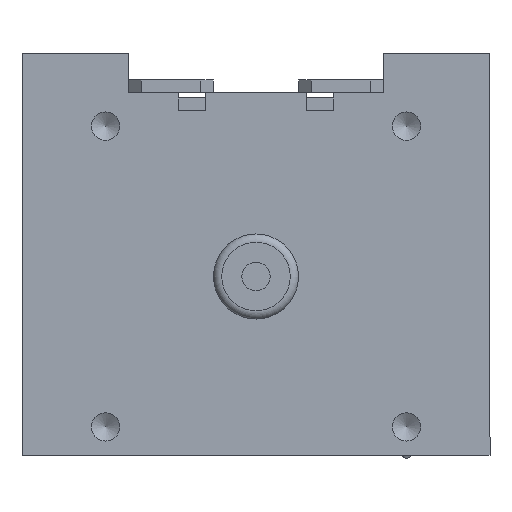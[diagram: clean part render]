
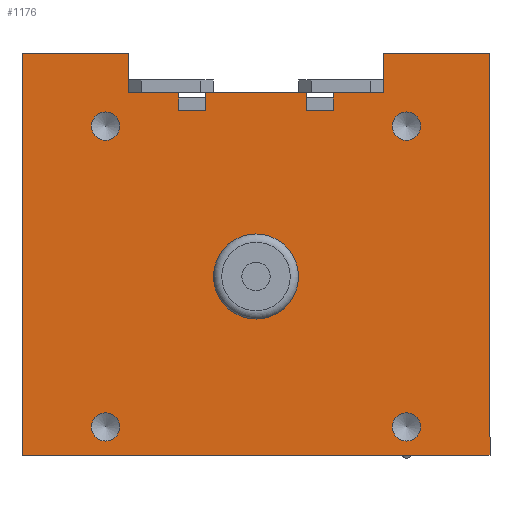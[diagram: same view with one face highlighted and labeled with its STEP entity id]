
A CAD part, front view. The second image highlights one B-rep face of the part: STEP entity #1176.
In plain terms, the highlighted planar face has unit normal (0, -1, 0).
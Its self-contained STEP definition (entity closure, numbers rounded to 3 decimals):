
#970=CARTESIAN_POINT('',(0.,0.,52.));
#971=VERTEX_POINT('',#970);
#972=CARTESIAN_POINT('',(0.,0.,42.));
#973=DIRECTION('',(0.0,1.0,0.0));
#974=DIRECTION('',(0.0,0.0,-1.0));
#975=AXIS2_PLACEMENT_3D('',#972,#973,#974);
#976=CIRCLE('',#975,10.);
#977=EDGE_CURVE('',#971,#971,#976,.T.);
#994=CARTESIAN_POINT('',(0.,0.,49.012));
#995=DIRECTION('',(0.0,1.0,0.0));
#996=DIRECTION('',(0.0,0.0,1.0));
#997=AXIS2_PLACEMENT_3D('',#994,#995,#996);
#998=PLANE('',#997);
#999=CARTESIAN_POINT('',(-55.,0.,94.5));
#1000=VERTEX_POINT('',#999);
#1001=CARTESIAN_POINT('',(-55.0,0.,0.));
#1002=VERTEX_POINT('',#1001);
#1003=CARTESIAN_POINT('',(-55.,0.,94.5));
#1004=DIRECTION('',(0.0,0.0,-1.0));
#1005=VECTOR('',#1004,94.5);
#1006=LINE('',#1003,#1005);
#1007=EDGE_CURVE('',#1000,#1002,#1006,.T.);
#1008=ORIENTED_EDGE('',*,*,#1007,.T.);
#1009=CARTESIAN_POINT('',(55.0,0.,0.));
#1010=VERTEX_POINT('',#1009);
#1011=CARTESIAN_POINT('',(-55.0,0.,0.));
#1012=DIRECTION('',(1.0,0.0,0.0));
#1013=VECTOR('',#1012,110.0);
#1014=LINE('',#1011,#1013);
#1015=EDGE_CURVE('',#1002,#1010,#1014,.T.);
#1016=ORIENTED_EDGE('',*,*,#1015,.T.);
#1017=CARTESIAN_POINT('',(55.,0.,94.5));
#1018=VERTEX_POINT('',#1017);
#1019=CARTESIAN_POINT('',(55.0,0.,0.));
#1020=DIRECTION('',(0.0,0.0,1.0));
#1021=VECTOR('',#1020,94.5);
#1022=LINE('',#1019,#1021);
#1023=EDGE_CURVE('',#1010,#1018,#1022,.T.);
#1024=ORIENTED_EDGE('',*,*,#1023,.T.);
#1025=CARTESIAN_POINT('',(30.,0.,94.5));
#1026=VERTEX_POINT('',#1025);
#1027=CARTESIAN_POINT('',(55.,0.,94.5));
#1028=DIRECTION('',(-1.0,0.0,0.0));
#1029=VECTOR('',#1028,25.);
#1030=LINE('',#1027,#1029);
#1031=EDGE_CURVE('',#1018,#1026,#1030,.T.);
#1032=ORIENTED_EDGE('',*,*,#1031,.T.);
#1033=CARTESIAN_POINT('',(30.,0.,85.2));
#1034=VERTEX_POINT('',#1033);
#1035=CARTESIAN_POINT('',(30.,0.,94.5));
#1036=DIRECTION('',(0.0,0.0,-1.0));
#1037=VECTOR('',#1036,9.3);
#1038=LINE('',#1035,#1037);
#1039=EDGE_CURVE('',#1026,#1034,#1038,.T.);
#1040=ORIENTED_EDGE('',*,*,#1039,.T.);
#1041=CARTESIAN_POINT('',(18.2,0.,85.2));
#1042=VERTEX_POINT('',#1041);
#1043=CARTESIAN_POINT('',(30.,0.,85.2));
#1044=DIRECTION('',(-1.0,0.0,0.0));
#1045=VECTOR('',#1044,11.8);
#1046=LINE('',#1043,#1045);
#1047=EDGE_CURVE('',#1034,#1042,#1046,.T.);
#1048=ORIENTED_EDGE('',*,*,#1047,.T.);
#1049=CARTESIAN_POINT('',(18.2,0.,81.));
#1050=VERTEX_POINT('',#1049);
#1051=CARTESIAN_POINT('',(18.2,0.,85.2));
#1052=DIRECTION('',(0.0,0.0,-1.0));
#1053=VECTOR('',#1052,4.2);
#1054=LINE('',#1051,#1053);
#1055=EDGE_CURVE('',#1042,#1050,#1054,.T.);
#1056=ORIENTED_EDGE('',*,*,#1055,.T.);
#1057=CARTESIAN_POINT('',(11.8,0.,81.));
#1058=VERTEX_POINT('',#1057);
#1059=CARTESIAN_POINT('',(18.2,0.,81.));
#1060=DIRECTION('',(-1.0,0.0,0.0));
#1061=VECTOR('',#1060,6.4);
#1062=LINE('',#1059,#1061);
#1063=EDGE_CURVE('',#1050,#1058,#1062,.T.);
#1064=ORIENTED_EDGE('',*,*,#1063,.T.);
#1065=CARTESIAN_POINT('',(11.8,0.,85.2));
#1066=VERTEX_POINT('',#1065);
#1067=CARTESIAN_POINT('',(11.8,0.,81.));
#1068=DIRECTION('',(0.0,0.0,1.0));
#1069=VECTOR('',#1068,4.2);
#1070=LINE('',#1067,#1069);
#1071=EDGE_CURVE('',#1058,#1066,#1070,.T.);
#1072=ORIENTED_EDGE('',*,*,#1071,.T.);
#1073=CARTESIAN_POINT('',(-11.8,0.,85.2));
#1074=VERTEX_POINT('',#1073);
#1075=CARTESIAN_POINT('',(11.8,0.,85.2));
#1076=DIRECTION('',(-1.0,0.0,0.0));
#1077=VECTOR('',#1076,23.6);
#1078=LINE('',#1075,#1077);
#1079=EDGE_CURVE('',#1066,#1074,#1078,.T.);
#1080=ORIENTED_EDGE('',*,*,#1079,.T.);
#1081=CARTESIAN_POINT('',(-11.8,0.,81.0));
#1082=VERTEX_POINT('',#1081);
#1083=CARTESIAN_POINT('',(-11.8,0.,85.2));
#1084=DIRECTION('',(0.0,0.0,-1.0));
#1085=VECTOR('',#1084,4.2);
#1086=LINE('',#1083,#1085);
#1087=EDGE_CURVE('',#1074,#1082,#1086,.T.);
#1088=ORIENTED_EDGE('',*,*,#1087,.T.);
#1089=CARTESIAN_POINT('',(-18.2,0.,81.));
#1090=VERTEX_POINT('',#1089);
#1091=CARTESIAN_POINT('',(-11.8,0.,81.0));
#1092=DIRECTION('',(-1.0,0.0,0.0));
#1093=VECTOR('',#1092,6.4);
#1094=LINE('',#1091,#1093);
#1095=EDGE_CURVE('',#1082,#1090,#1094,.T.);
#1096=ORIENTED_EDGE('',*,*,#1095,.T.);
#1097=CARTESIAN_POINT('',(-18.2,0.,85.2));
#1098=VERTEX_POINT('',#1097);
#1099=CARTESIAN_POINT('',(-18.2,0.,81.));
#1100=DIRECTION('',(0.0,0.0,1.0));
#1101=VECTOR('',#1100,4.2);
#1102=LINE('',#1099,#1101);
#1103=EDGE_CURVE('',#1090,#1098,#1102,.T.);
#1104=ORIENTED_EDGE('',*,*,#1103,.T.);
#1105=CARTESIAN_POINT('',(-30.,0.,85.2));
#1106=VERTEX_POINT('',#1105);
#1107=CARTESIAN_POINT('',(-18.2,0.,85.2));
#1108=DIRECTION('',(-1.0,0.0,0.0));
#1109=VECTOR('',#1108,11.8);
#1110=LINE('',#1107,#1109);
#1111=EDGE_CURVE('',#1098,#1106,#1110,.T.);
#1112=ORIENTED_EDGE('',*,*,#1111,.T.);
#1113=CARTESIAN_POINT('',(-30.,0.,94.5));
#1114=VERTEX_POINT('',#1113);
#1115=CARTESIAN_POINT('',(-30.,0.,85.2));
#1116=DIRECTION('',(0.0,0.0,1.0));
#1117=VECTOR('',#1116,9.3);
#1118=LINE('',#1115,#1117);
#1119=EDGE_CURVE('',#1106,#1114,#1118,.T.);
#1120=ORIENTED_EDGE('',*,*,#1119,.T.);
#1121=CARTESIAN_POINT('',(-30.,0.,94.5));
#1122=DIRECTION('',(-1.0,0.0,0.0));
#1123=VECTOR('',#1122,25.);
#1124=LINE('',#1121,#1123);
#1125=EDGE_CURVE('',#1114,#1000,#1124,.T.);
#1126=ORIENTED_EDGE('',*,*,#1125,.T.);
#1127=EDGE_LOOP('',(#1008,#1016,#1024,#1032,#1040,#1048,#1056,#1064,#1072,#1080,#1088,#1096,#1104,#1112,#1120,#1126));
#1128=FACE_OUTER_BOUND('',#1127,.T.);
#1129=CARTESIAN_POINT('',(35.355,0.,3.321));
#1130=VERTEX_POINT('',#1129);
#1131=CARTESIAN_POINT('',(35.355,0.,6.645));
#1132=DIRECTION('',(0.0,1.0,0.0));
#1133=DIRECTION('',(0.0,0.0,-1.0));
#1134=AXIS2_PLACEMENT_3D('',#1131,#1132,#1133);
#1135=CIRCLE('',#1134,3.324);
#1136=EDGE_CURVE('',#1130,#1130,#1135,.T.);
#1137=ORIENTED_EDGE('',*,*,#1136,.T.);
#1138=EDGE_LOOP('',(#1137));
#1139=FACE_BOUND('',#1138,.T.);
#1140=CARTESIAN_POINT('',(35.355,0.,74.032));
#1141=VERTEX_POINT('',#1140);
#1142=CARTESIAN_POINT('',(35.355,0.,77.355));
#1143=DIRECTION('',(0.0,1.0,0.0));
#1144=DIRECTION('',(0.0,0.0,-1.0));
#1145=AXIS2_PLACEMENT_3D('',#1142,#1143,#1144);
#1146=CIRCLE('',#1145,3.324);
#1147=EDGE_CURVE('',#1141,#1141,#1146,.T.);
#1148=ORIENTED_EDGE('',*,*,#1147,.T.);
#1149=EDGE_LOOP('',(#1148));
#1150=FACE_BOUND('',#1149,.T.);
#1151=CARTESIAN_POINT('',(-35.355,0.,74.032));
#1152=VERTEX_POINT('',#1151);
#1153=CARTESIAN_POINT('',(-35.355,0.,77.355));
#1154=DIRECTION('',(0.0,1.0,0.0));
#1155=DIRECTION('',(0.0,0.0,-1.0));
#1156=AXIS2_PLACEMENT_3D('',#1153,#1154,#1155);
#1157=CIRCLE('',#1156,3.324);
#1158=EDGE_CURVE('',#1152,#1152,#1157,.T.);
#1159=ORIENTED_EDGE('',*,*,#1158,.T.);
#1160=EDGE_LOOP('',(#1159));
#1161=FACE_BOUND('',#1160,.T.);
#1162=CARTESIAN_POINT('',(-35.355,0.,3.321));
#1163=VERTEX_POINT('',#1162);
#1164=CARTESIAN_POINT('',(-35.355,0.,6.645));
#1165=DIRECTION('',(0.0,1.0,0.0));
#1166=DIRECTION('',(0.0,0.0,-1.0));
#1167=AXIS2_PLACEMENT_3D('',#1164,#1165,#1166);
#1168=CIRCLE('',#1167,3.324);
#1169=EDGE_CURVE('',#1163,#1163,#1168,.T.);
#1170=ORIENTED_EDGE('',*,*,#1169,.T.);
#1171=EDGE_LOOP('',(#1170));
#1172=FACE_BOUND('',#1171,.T.);
#1173=ORIENTED_EDGE('',*,*,#977,.T.);
#1174=EDGE_LOOP('',(#1173));
#1175=FACE_BOUND('',#1174,.T.);
#1176=ADVANCED_FACE('',(#1128,#1139,#1150,#1161,#1172,#1175),#998,.F.);
